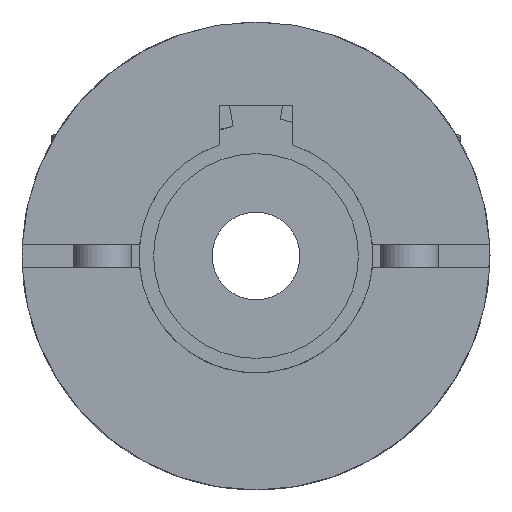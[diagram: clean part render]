
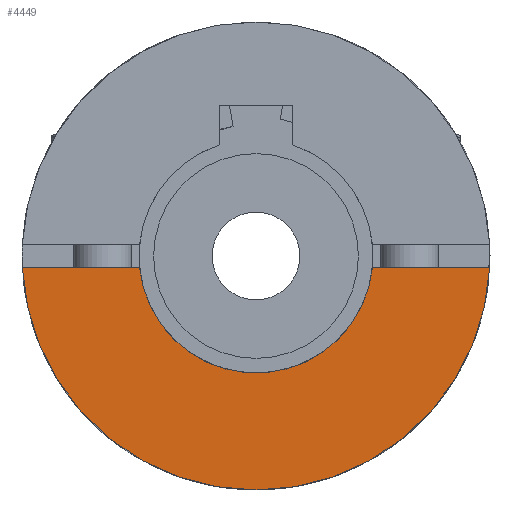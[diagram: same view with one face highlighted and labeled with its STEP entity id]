
A CAD part, left-side view. The second image highlights one B-rep face of the part: STEP entity #4449.
In plain terms, the highlighted planar face has unit normal (-1, 0, 0).
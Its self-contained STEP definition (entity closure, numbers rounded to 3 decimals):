
#81=PLANE('',#4758);
#263=FACE_OUTER_BOUND('',#507,.T.);
#507=EDGE_LOOP('',(#3126,#3127,#3128,#3129));
#820=LINE('',#6725,#1270);
#823=LINE('',#6735,#1273);
#1270=VECTOR('',#5340,13.611);
#1273=VECTOR('',#5349,13.611);
#1695=CIRCLE('',#4737,8.);
#1708=CIRCLE('',#4759,16.);
#1943=VERTEX_POINT('',#6660);
#1944=VERTEX_POINT('',#6661);
#1967=VERTEX_POINT('',#6724);
#1971=VERTEX_POINT('',#6734);
#2391=EDGE_CURVE('',#1943,#1944,#1695,.T.);
#2423=EDGE_CURVE('',#1943,#1967,#820,.T.);
#2428=EDGE_CURVE('',#1971,#1944,#823,.T.);
#2429=EDGE_CURVE('',#1971,#1967,#1708,.T.);
#3126=ORIENTED_EDGE('',*,*,#2391,.T.);
#3127=ORIENTED_EDGE('',*,*,#2428,.F.);
#3128=ORIENTED_EDGE('',*,*,#2429,.T.);
#3129=ORIENTED_EDGE('',*,*,#2423,.F.);
#4449=ADVANCED_FACE('',(#263),#81,.F.);
#4737=AXIS2_PLACEMENT_3D('',#6662,#5281,#5282);
#4758=AXIS2_PLACEMENT_3D('',#6733,#5347,#5348);
#4759=AXIS2_PLACEMENT_3D('',#6736,#5350,#5351);
#5281=DIRECTION('center_axis',(1.,0.,0.));
#5282=DIRECTION('ref_axis',(0.,0.,1.));
#5340=DIRECTION('',(0.,-1.,0.));
#5347=DIRECTION('center_axis',(1.,0.,0.));
#5348=DIRECTION('ref_axis',(0.,0.,-1.));
#5349=DIRECTION('',(0.,-1.,0.));
#5350=DIRECTION('center_axis',(-1.,0.,0.));
#5351=DIRECTION('ref_axis',(0.,0.999,-0.05));
#6660=CARTESIAN_POINT('',(0.,-7.96,-0.8));
#6661=CARTESIAN_POINT('',(0.,7.96,-0.8));
#6662=CARTESIAN_POINT('Origin',(0.,0.,0.));
#6724=CARTESIAN_POINT('',(0.,-15.98,-0.8));
#6725=CARTESIAN_POINT('',(0.,-2.369,-0.8));
#6733=CARTESIAN_POINT('Origin',(0.,0.,16.));
#6734=CARTESIAN_POINT('',(0.,15.98,-0.8));
#6735=CARTESIAN_POINT('',(0.,15.98,-0.8));
#6736=CARTESIAN_POINT('Origin',(0.,0.,0.));
